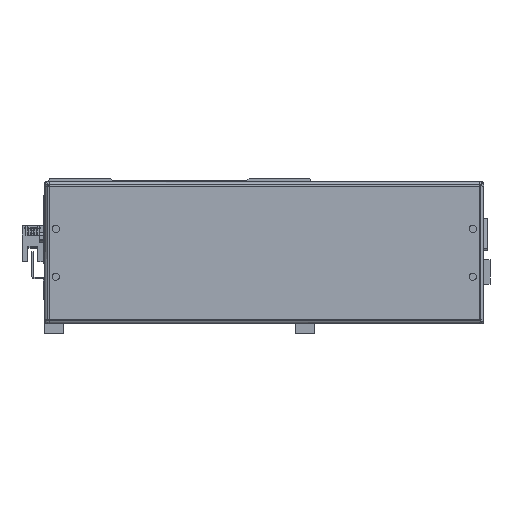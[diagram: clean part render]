
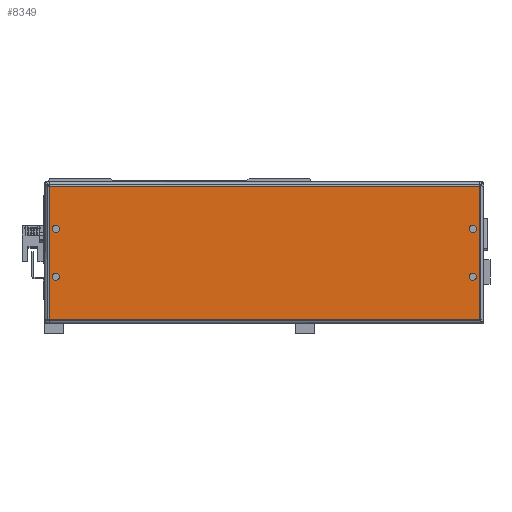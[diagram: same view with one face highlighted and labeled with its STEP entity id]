
A CAD part, front view. The second image highlights one B-rep face of the part: STEP entity #8349.
In plain terms, the highlighted planar face has unit normal (0, -1, 0) as drawn and (0, 0, 1) by its records, which use the part's own axes.
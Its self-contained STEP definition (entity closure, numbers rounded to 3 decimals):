
#51 = EDGE_CURVE ( 'NONE', #22050, #22050, #1451, .T. ) ;
#373 = ORIENTED_EDGE ( 'NONE', *, *, #23712, .F. ) ;
#809 = EDGE_LOOP ( 'NONE', ( #14735 ) ) ;
#1186 = DIRECTION ( 'NONE',  ( 0., 0., -1. ) ) ;
#1451 = CIRCLE ( 'NONE', #11380, 2.25 ) ;
#1638 = ORIENTED_EDGE ( 'NONE', *, *, #2576, .T. ) ;
#1764 = DIRECTION ( 'NONE',  ( 0., -1., 0. ) ) ;
#2576 = EDGE_CURVE ( 'NONE', #8294, #8294, #18043, .T. ) ;
#2631 = VECTOR ( 'NONE', #6042, 1000. ) ;
#3598 = ORIENTED_EDGE ( 'NONE', *, *, #26692, .F. ) ;
#3918 = EDGE_CURVE ( 'NONE', #15986, #15986, #21147, .T. ) ;
#4188 = AXIS2_PLACEMENT_3D ( 'NONE', #8564, #1186, #12824 ) ;
#4997 = FACE_OUTER_BOUND ( 'NONE', #18892, .T. ) ;
#5196 = CARTESIAN_POINT ( 'NONE',  ( -97.016, 59.938, 63. ) ) ;
#5428 = FACE_BOUND ( 'NONE', #17195, .T. ) ;
#6042 = DIRECTION ( 'NONE',  ( 0., 1., 0. ) ) ;
#6531 = LINE ( 'NONE', #13349, #12054 ) ;
#6550 = CARTESIAN_POINT ( 'NONE',  ( -90.503, 116.731, 63. ) ) ;
#6853 = ORIENTED_EDGE ( 'NONE', *, *, #11582, .F. ) ;
#6969 = CARTESIAN_POINT ( 'NONE',  ( 168.247, 116.731, 63. ) ) ;
#6981 = DIRECTION ( 'NONE',  ( 1., 0., 0. ) ) ;
#6995 = EDGE_CURVE ( 'NONE', #26016, #26016, #10781, .T. ) ;
#7185 = DIRECTION ( 'NONE',  ( 0., 0., 1. ) ) ;
#8091 = CARTESIAN_POINT ( 'NONE',  ( -97.016, 143.494, 63. ) ) ;
#8294 = VERTEX_POINT ( 'NONE', #6550 ) ;
#8349 = ADVANCED_FACE ( 'NONE', ( #16599, #9755, #5428, #19643, #4997 ), #18764, .T. ) ;
#8470 = AXIS2_PLACEMENT_3D ( 'NONE', #6969, #18527, #25939 ) ;
#8564 = CARTESIAN_POINT ( 'NONE',  ( -92.753, 116.731, 63. ) ) ;
#8681 = DIRECTION ( 'NONE',  ( -1., 0., 0. ) ) ;
#8699 = DIRECTION ( 'NONE',  ( 0., 0., -1. ) ) ;
#8782 = CARTESIAN_POINT ( 'NONE',  ( 172.51, 143.494, 63. ) ) ;
#8821 = AXIS2_PLACEMENT_3D ( 'NONE', #20324, #8699, #6981 ) ;
#9082 = LINE ( 'NONE', #15963, #16635 ) ;
#9417 = DIRECTION ( 'NONE',  ( 0., 0., -1. ) ) ;
#9755 = FACE_BOUND ( 'NONE', #809, .T. ) ;
#10529 = CARTESIAN_POINT ( 'NONE',  ( 172.51, 59.968, 63. ) ) ;
#10781 = CIRCLE ( 'NONE', #8821, 2.25 ) ;
#11338 = ORIENTED_EDGE ( 'NONE', *, *, #6995, .T. ) ;
#11380 = AXIS2_PLACEMENT_3D ( 'NONE', #24541, #9417, #18884 ) ;
#11582 = EDGE_CURVE ( 'NONE', #15633, #15040, #25947, .T. ) ;
#12054 = VECTOR ( 'NONE', #1764, 1000. ) ;
#12824 = DIRECTION ( 'NONE',  ( 1., 0., 0. ) ) ;
#13062 = EDGE_LOOP ( 'NONE', ( #14784 ) ) ;
#13349 = CARTESIAN_POINT ( 'NONE',  ( 172.51, 143.524, 63. ) ) ;
#13751 = CARTESIAN_POINT ( 'NONE',  ( 170.497, 86.731, 63. ) ) ;
#13794 = CARTESIAN_POINT ( 'NONE',  ( -97.046, 143.494, 63. ) ) ;
#14735 = ORIENTED_EDGE ( 'NONE', *, *, #51, .T. ) ;
#14784 = ORIENTED_EDGE ( 'NONE', *, *, #3918, .T. ) ;
#15040 = VERTEX_POINT ( 'NONE', #8091 ) ;
#15557 = CARTESIAN_POINT ( 'NONE',  ( 170.497, 116.731, 63. ) ) ;
#15633 = VERTEX_POINT ( 'NONE', #17343 ) ;
#15963 = CARTESIAN_POINT ( 'NONE',  ( 172.54, 59.968, 63. ) ) ;
#15986 = VERTEX_POINT ( 'NONE', #15557 ) ;
#16542 = EDGE_CURVE ( 'NONE', #19420, #15633, #9082, .T. ) ;
#16599 = FACE_BOUND ( 'NONE', #13062, .T. ) ;
#16635 = VECTOR ( 'NONE', #8681, 1000. ) ;
#16755 = VERTEX_POINT ( 'NONE', #8782 ) ;
#16868 = CARTESIAN_POINT ( 'NONE',  ( -90.503, 86.731, 63. ) ) ;
#17195 = EDGE_LOOP ( 'NONE', ( #11338 ) ) ;
#17343 = CARTESIAN_POINT ( 'NONE',  ( -97.016, 59.968, 63. ) ) ;
#17470 = DIRECTION ( 'NONE',  ( 1., 0., 0. ) ) ;
#18043 = CIRCLE ( 'NONE', #4188, 2.25 ) ;
#18527 = DIRECTION ( 'NONE',  ( 0., 0., -1. ) ) ;
#18764 = PLANE ( 'NONE',  #22081 ) ;
#18884 = DIRECTION ( 'NONE',  ( 1., 0., 0. ) ) ;
#18892 = EDGE_LOOP ( 'NONE', ( #373, #6853, #24109, #3598 ) ) ;
#19237 = EDGE_LOOP ( 'NONE', ( #1638 ) ) ;
#19420 = VERTEX_POINT ( 'NONE', #10529 ) ;
#19643 = FACE_BOUND ( 'NONE', #19237, .T. ) ;
#20318 = VECTOR ( 'NONE', #21249, 1000. ) ;
#20324 = CARTESIAN_POINT ( 'NONE',  ( -92.753, 86.731, 63. ) ) ;
#21147 = CIRCLE ( 'NONE', #8470, 2.25 ) ;
#21249 = DIRECTION ( 'NONE',  ( 1., 0., 0. ) ) ;
#22050 = VERTEX_POINT ( 'NONE', #13751 ) ;
#22081 = AXIS2_PLACEMENT_3D ( 'NONE', #26598, #7185, #17470 ) ;
#22087 = LINE ( 'NONE', #13794, #20318 ) ;
#23712 = EDGE_CURVE ( 'NONE', #15040, #16755, #22087, .T. ) ;
#24109 = ORIENTED_EDGE ( 'NONE', *, *, #16542, .F. ) ;
#24541 = CARTESIAN_POINT ( 'NONE',  ( 168.247, 86.731, 63. ) ) ;
#25939 = DIRECTION ( 'NONE',  ( 1., 0., 0. ) ) ;
#25947 = LINE ( 'NONE', #5196, #2631 ) ;
#26016 = VERTEX_POINT ( 'NONE', #16868 ) ;
#26598 = CARTESIAN_POINT ( 'NONE',  ( -71.103, 112.191, 63. ) ) ;
#26692 = EDGE_CURVE ( 'NONE', #16755, #19420, #6531, .T. ) ;
